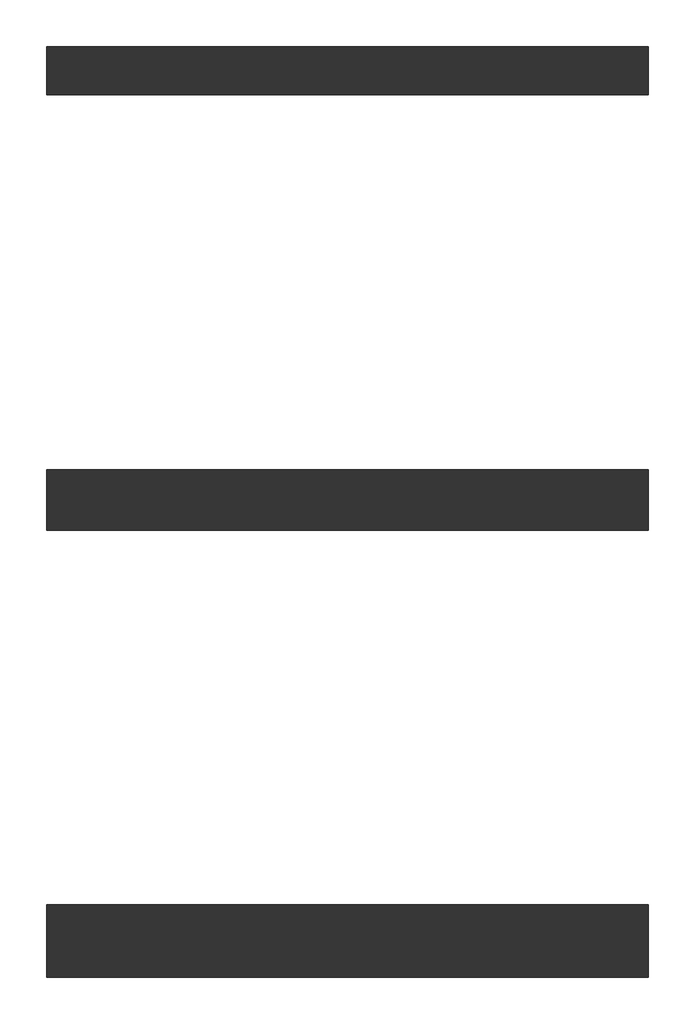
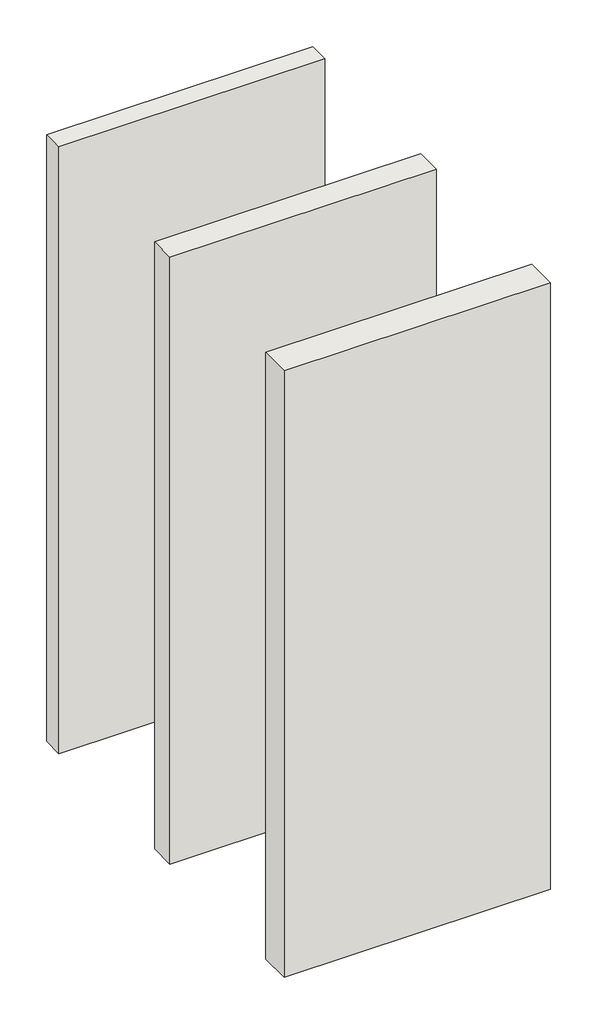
# One storey: 3 walls.
"""IFC4 building model written with IfcOpenShell, lengths in millimetres."""

from ifc_helpers import new_model, si_unit, origin, origin_with_axes, place, context, project, spatial, polyline, outline, extrude, element, save

model = new_model("IFC4")

# Units and contexts
model_context = context("Model", 3, world=origin())
ifc_project = project(units=[si_unit("LENGTHUNIT", "METRE", prefix="MILLI")], contexts=[model_context])

# Site, building, storey
site = spatial("IfcSite", under=ifc_project)
building = spatial("IfcBuilding", under=site)
storey = spatial("IfcBuildingStorey", under=building, Name="Уровень 1", Elevation=0.0)

# Walls
placement = place(None, origin())
element("IfcWall", 1, ObjectType="Перегородка-КНАУФ-С362-Применение внутри здания-100/50@600 ГВЛ(ГВЛВ) 12,5", at=placement, inside=storey, context=model_context, shape_type="SweptSolid", body=[
    extrude(outline(polyline([(-9315.7236634, 13496.7035262), (-10560.2640717, 13496.7035262), (-10560.2640717, 13596.7035262), (-9315.7236634, 13596.7035262), (-9315.7236634, 13496.7035262)])), origin_with_axes(), (0.0, 0.0, 1.0), 3000.0),
])
element("IfcWall", 2, ObjectType="Перегородка-КНАУФ-С362-Применение внутри здания-125/75@600 ГВЛ(ГВЛВ)  12,5", at=placement, inside=storey, context=model_context, shape_type="SweptSolid", body=[
    extrude(outline(polyline([(-9315.7236634, 12596.7035262), (-10560.2640717, 12596.7035262), (-10560.2640717, 12721.7035262), (-9315.7236634, 12721.7035262), (-9315.7236634, 12596.7035262)])), origin_with_axes(), (0.0, 0.0, 1.0), 3000.0),
])
element("IfcWall", 3, ObjectType="Перегородка-КНАУФ-С362-Применение внутри здания-125/100@600 ГВЛ(ГВЛВ)  12,5", at=placement, inside=storey, context=model_context, shape_type="SweptSolid", body=[
    extrude(outline(polyline([(-9315.7236634, 11671.7035262), (-10560.2640717, 11671.7035262), (-10560.2640717, 11821.7035262), (-9315.7236634, 11821.7035262), (-9315.7236634, 11671.7035262)])), origin_with_axes(), (0.0, 0.0, 1.0), 3000.0),
])

save(model, "model.ifc")
